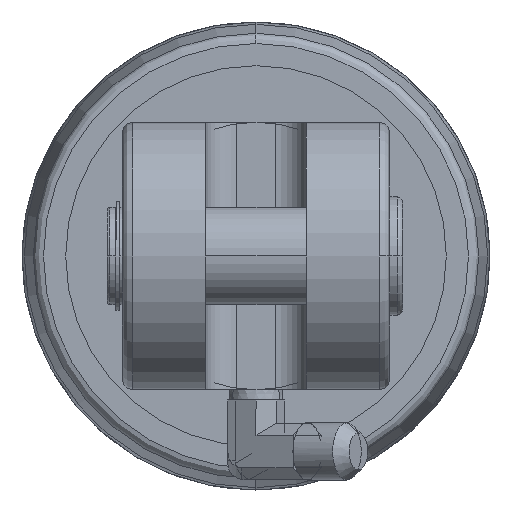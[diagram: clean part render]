
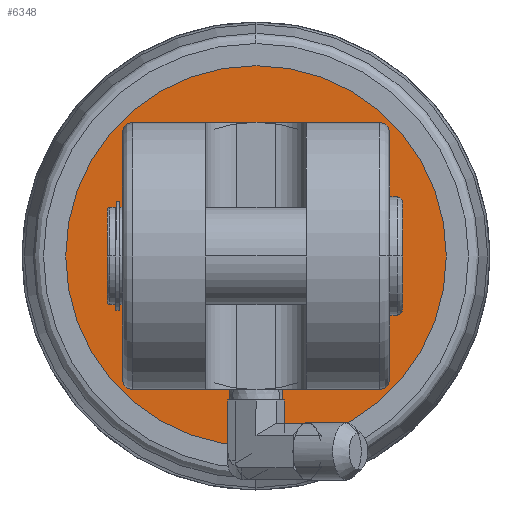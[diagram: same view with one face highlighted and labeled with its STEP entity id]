
A CAD part, left-side view. The second image highlights one B-rep face of the part: STEP entity #6348.
In plain terms, the highlighted planar face has unit normal (-1, 0, 0).
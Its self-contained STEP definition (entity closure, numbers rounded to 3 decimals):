
#159 = EDGE_LOOP ( 'NONE', ( #3498, #1704 ) ) ;
#174 = VERTEX_POINT ( 'NONE', #932 ) ;
#425 = FACE_BOUND ( 'NONE', #6755, .T. ) ;
#479 = DIRECTION ( 'NONE',  ( -1., 0., 0. ) ) ;
#523 = DIRECTION ( 'NONE',  ( 0., 0., 1. ) ) ;
#824 = DIRECTION ( 'NONE',  ( -1., 0., 0. ) ) ;
#916 = CARTESIAN_POINT ( 'NONE',  ( 0., 0., 0. ) ) ;
#932 = CARTESIAN_POINT ( 'NONE',  ( 0., 0., -37. ) ) ;
#1338 = CARTESIAN_POINT ( 'NONE',  ( 0., 0., 0. ) ) ;
#1704 = ORIENTED_EDGE ( 'NONE', *, *, #3790, .T. ) ;
#1735 = VERTEX_POINT ( 'NONE', #7377 ) ;
#1917 = AXIS2_PLACEMENT_3D ( 'NONE', #3089, #6605, #4453 ) ;
#1997 = EDGE_CURVE ( 'NONE', #6831, #1735, #2111, .T. ) ;
#2111 = CIRCLE ( 'NONE', #4513, 15.875 ) ;
#2147 = DIRECTION ( 'NONE',  ( 0., 0., 1. ) ) ;
#2171 = CARTESIAN_POINT ( 'NONE',  ( 0., 0., 37. ) ) ;
#2684 = ORIENTED_EDGE ( 'NONE', *, *, #1997, .F. ) ;
#2886 = ORIENTED_EDGE ( 'NONE', *, *, #6354, .F. ) ;
#2912 = EDGE_CURVE ( 'NONE', #3248, #174, #3193, .T. ) ;
#3089 = CARTESIAN_POINT ( 'NONE',  ( 0., 0., 0. ) ) ;
#3193 = CIRCLE ( 'NONE', #7153, 37. ) ;
#3248 = VERTEX_POINT ( 'NONE', #2171 ) ;
#3498 = ORIENTED_EDGE ( 'NONE', *, *, #2912, .T. ) ;
#3526 = FACE_OUTER_BOUND ( 'NONE', #159, .T. ) ;
#3612 = CARTESIAN_POINT ( 'NONE',  ( 0., 0., 15.875 ) ) ;
#3742 = DIRECTION ( 'NONE',  ( -1., 0., 0. ) ) ;
#3790 = EDGE_CURVE ( 'NONE', #174, #3248, #5974, .T. ) ;
#4453 = DIRECTION ( 'NONE',  ( 0., 0., 1. ) ) ;
#4513 = AXIS2_PLACEMENT_3D ( 'NONE', #916, #5124, #2147 ) ;
#4969 = DIRECTION ( 'NONE',  ( 0., 0., 1. ) ) ;
#5124 = DIRECTION ( 'NONE',  ( -1., 0., 0. ) ) ;
#5467 = DIRECTION ( 'NONE',  ( 0., 0., 1. ) ) ;
#5583 = PLANE ( 'NONE',  #6634 ) ;
#5974 = CIRCLE ( 'NONE', #1917, 37. ) ;
#6133 = CARTESIAN_POINT ( 'NONE',  ( 0., 0., 0. ) ) ;
#6244 = AXIS2_PLACEMENT_3D ( 'NONE', #1338, #3742, #523 ) ;
#6348 = ADVANCED_FACE ( 'NONE', ( #425, #3526 ), #5583, .T. ) ;
#6354 = EDGE_CURVE ( 'NONE', #1735, #6831, #6485, .T. ) ;
#6452 = CARTESIAN_POINT ( 'NONE',  ( 0., 38., 0. ) ) ;
#6485 = CIRCLE ( 'NONE', #6244, 15.875 ) ;
#6605 = DIRECTION ( 'NONE',  ( -1., 0., 0. ) ) ;
#6634 = AXIS2_PLACEMENT_3D ( 'NONE', #6452, #479, #5467 ) ;
#6755 = EDGE_LOOP ( 'NONE', ( #2886, #2684 ) ) ;
#6831 = VERTEX_POINT ( 'NONE', #3612 ) ;
#7153 = AXIS2_PLACEMENT_3D ( 'NONE', #6133, #824, #4969 ) ;
#7377 = CARTESIAN_POINT ( 'NONE',  ( 0., 0., -15.875 ) ) ;
